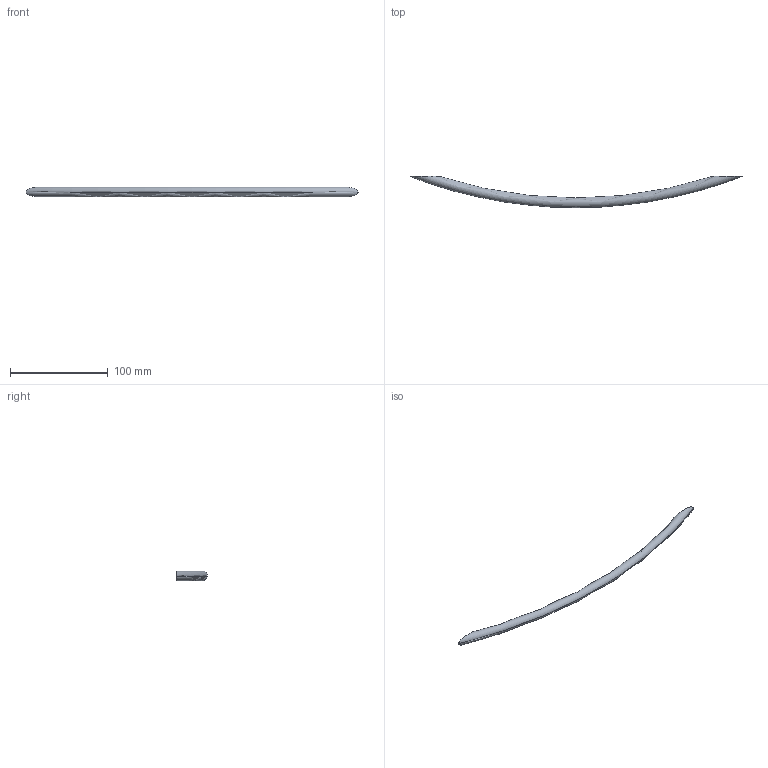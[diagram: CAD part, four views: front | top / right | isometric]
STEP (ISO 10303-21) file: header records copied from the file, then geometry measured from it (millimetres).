
FILE_DESCRIPTION( ( '' ), '1' );
FILE_NAME( 'D:/1.AUTOCAD EXPORT/Group 10/sheet_10_1/ 9070509.stp', '2013-10-21T12:43:34', ( '' ), ( '' ), ' ', ' ', ' ' );
FILE_SCHEMA( ( 'automotive_design' ) );
Length unit declared in the file: millimetre
Products named in the file (1): 1
Bounding box: 339 x 31.82 x 9.97 mm (x, y, z)
Volume: 24702 mm3; surface area: 10549.5 mm2
Topology: 1 solids, 1 shells, 10 faces, 18 edges, 12 vertices
Faces by surface type: cylinder 4, plane 4, torus 2
Entity records: 654 total; most frequent: CARTESIAN_POINT 197, DIRECTION 46, STYLED_ITEM 41, PRESENTATION_STYLE_ASSIGNMENT 41, COLOUR_RGB 41, ORIENTED_EDGE 36, AXIS2_PLACEMENT_3D 21, EDGE_CURVE 18
